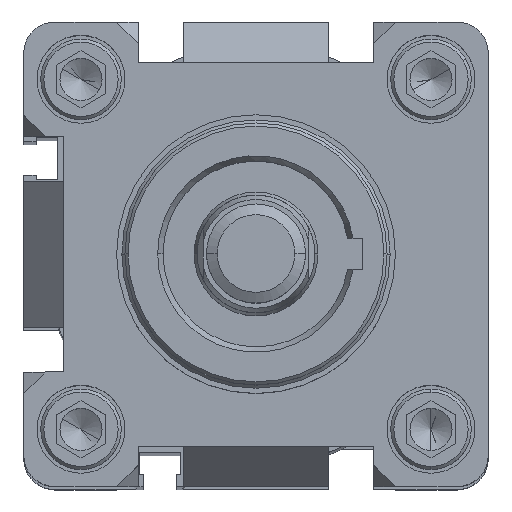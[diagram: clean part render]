
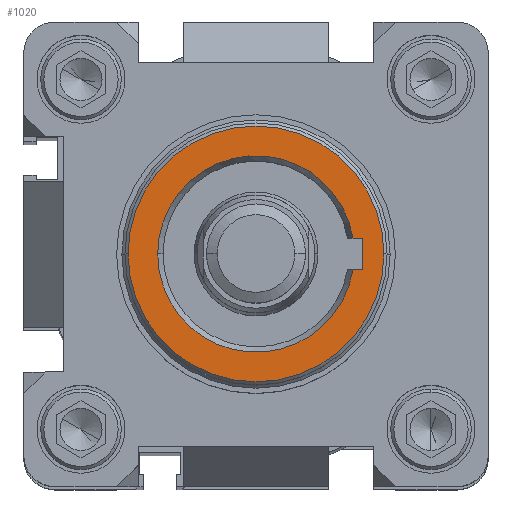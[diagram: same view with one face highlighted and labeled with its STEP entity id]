
A CAD part, top view. The second image highlights one B-rep face of the part: STEP entity #1020.
In plain terms, the highlighted planar face has unit normal (0, 0, 1).
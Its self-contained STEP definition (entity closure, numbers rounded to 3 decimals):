
#542 = FACE_OUTER_BOUND ( 'NONE', #16291, .T. ) ;
#1020 = ADVANCED_FACE ( 'NONE', ( #6608, #542 ), #4092, .T. ) ;
#1171 = LINE ( 'NONE', #20346, #20653 ) ;
#1196 = CARTESIAN_POINT ( 'NONE',  ( 0., 0., 148.5 ) ) ;
#1282 = DIRECTION ( 'NONE',  ( -1., 0., 0. ) ) ;
#1365 = AXIS2_PLACEMENT_3D ( 'NONE', #1196, #23425, #1282 ) ;
#1637 = AXIS2_PLACEMENT_3D ( 'NONE', #16527, #24883, #24795 ) ;
#1674 = ORIENTED_EDGE ( 'NONE', *, *, #5539, .F. ) ;
#1714 = CARTESIAN_POINT ( 'NONE',  ( -15.866, 0., 148.5 ) ) ;
#1883 = DIRECTION ( 'NONE',  ( 0., 0., 1. ) ) ;
#1985 = DIRECTION ( 'NONE',  ( -1., 0., 0. ) ) ;
#2009 = DIRECTION ( 'NONE',  ( 0., 0., 1. ) ) ;
#2750 = ORIENTED_EDGE ( 'NONE', *, *, #19169, .F. ) ;
#2771 = EDGE_CURVE ( 'NONE', #5570, #22290, #10950, .T. ) ;
#3082 = AXIS2_PLACEMENT_3D ( 'NONE', #17630, #7901, #8085 ) ;
#3208 = CARTESIAN_POINT ( 'NONE',  ( 15.668, 2.5, 148.5 ) ) ;
#4042 = CARTESIAN_POINT ( 'NONE',  ( 15.668, -2.5, 148.5 ) ) ;
#4092 = PLANE ( 'NONE',  #3082 ) ;
#4801 = ORIENTED_EDGE ( 'NONE', *, *, #19941, .T. ) ;
#5236 = CARTESIAN_POINT ( 'NONE',  ( 17.2, -2.5, 148.5 ) ) ;
#5539 = EDGE_CURVE ( 'NONE', #24672, #5570, #11312, .T. ) ;
#5570 = VERTEX_POINT ( 'NONE', #3208 ) ;
#6608 = FACE_BOUND ( 'NONE', #14068, .T. ) ;
#6697 = EDGE_CURVE ( 'NONE', #15955, #13920, #8012, .T. ) ;
#6918 = LINE ( 'NONE', #5236, #13626 ) ;
#7052 = VERTEX_POINT ( 'NONE', #19152 ) ;
#7415 = AXIS2_PLACEMENT_3D ( 'NONE', #22565, #1883, #1985 ) ;
#7430 = ORIENTED_EDGE ( 'NONE', *, *, #2771, .F. ) ;
#7488 = EDGE_CURVE ( 'NONE', #22290, #24769, #19144, .T. ) ;
#7675 = CARTESIAN_POINT ( 'NONE',  ( 17.2, 2.5, 148.5 ) ) ;
#7901 = DIRECTION ( 'NONE',  ( 0., 0., 1. ) ) ;
#8012 = CIRCLE ( 'NONE', #7415, 20.65 ) ;
#8085 = DIRECTION ( 'NONE',  ( -1., 0., 0. ) ) ;
#9369 = VECTOR ( 'NONE', #9953, 1000. ) ;
#9422 = CARTESIAN_POINT ( 'NONE',  ( 17.2, 2.5, 148.5 ) ) ;
#9953 = DIRECTION ( 'NONE',  ( -1., 0., 0. ) ) ;
#10950 = CIRCLE ( 'NONE', #1365, 15.866 ) ;
#11312 = LINE ( 'NONE', #9422, #9369 ) ;
#12219 = AXIS2_PLACEMENT_3D ( 'NONE', #16178, #2009, #14287 ) ;
#12516 = ORIENTED_EDGE ( 'NONE', *, *, #18471, .F. ) ;
#13601 = CIRCLE ( 'NONE', #1637, 20.65 ) ;
#13626 = VECTOR ( 'NONE', #25298, 1000. ) ;
#13920 = VERTEX_POINT ( 'NONE', #16226 ) ;
#14068 = EDGE_LOOP ( 'NONE', ( #2750, #19592, #7430, #1674, #12516 ) ) ;
#14280 = DIRECTION ( 'NONE',  ( 0., 1., 0. ) ) ;
#14287 = DIRECTION ( 'NONE',  ( -1., 0., 0. ) ) ;
#15345 = ORIENTED_EDGE ( 'NONE', *, *, #6697, .T. ) ;
#15955 = VERTEX_POINT ( 'NONE', #24807 ) ;
#16178 = CARTESIAN_POINT ( 'NONE',  ( 0., 0., 148.5 ) ) ;
#16226 = CARTESIAN_POINT ( 'NONE',  ( 20.65, 0., 148.5 ) ) ;
#16291 = EDGE_LOOP ( 'NONE', ( #4801, #15345 ) ) ;
#16527 = CARTESIAN_POINT ( 'NONE',  ( 0., 0., 148.5 ) ) ;
#17630 = CARTESIAN_POINT ( 'NONE',  ( 0., 0., 148.5 ) ) ;
#18471 = EDGE_CURVE ( 'NONE', #7052, #24672, #1171, .T. ) ;
#19144 = CIRCLE ( 'NONE', #12219, 15.866 ) ;
#19152 = CARTESIAN_POINT ( 'NONE',  ( 17.2, -2.5, 148.5 ) ) ;
#19169 = EDGE_CURVE ( 'NONE', #24769, #7052, #6918, .T. ) ;
#19592 = ORIENTED_EDGE ( 'NONE', *, *, #7488, .F. ) ;
#19941 = EDGE_CURVE ( 'NONE', #13920, #15955, #13601, .T. ) ;
#20346 = CARTESIAN_POINT ( 'NONE',  ( 17.2, -2.5, 148.5 ) ) ;
#20653 = VECTOR ( 'NONE', #14280, 1000. ) ;
#22290 = VERTEX_POINT ( 'NONE', #1714 ) ;
#22565 = CARTESIAN_POINT ( 'NONE',  ( 0., 0., 148.5 ) ) ;
#23425 = DIRECTION ( 'NONE',  ( 0., 0., 1. ) ) ;
#24672 = VERTEX_POINT ( 'NONE', #7675 ) ;
#24769 = VERTEX_POINT ( 'NONE', #4042 ) ;
#24795 = DIRECTION ( 'NONE',  ( -1., 0., 0. ) ) ;
#24807 = CARTESIAN_POINT ( 'NONE',  ( -20.65, 0., 148.5 ) ) ;
#24883 = DIRECTION ( 'NONE',  ( 0., 0., 1. ) ) ;
#25298 = DIRECTION ( 'NONE',  ( 1., 0., 0. ) ) ;
